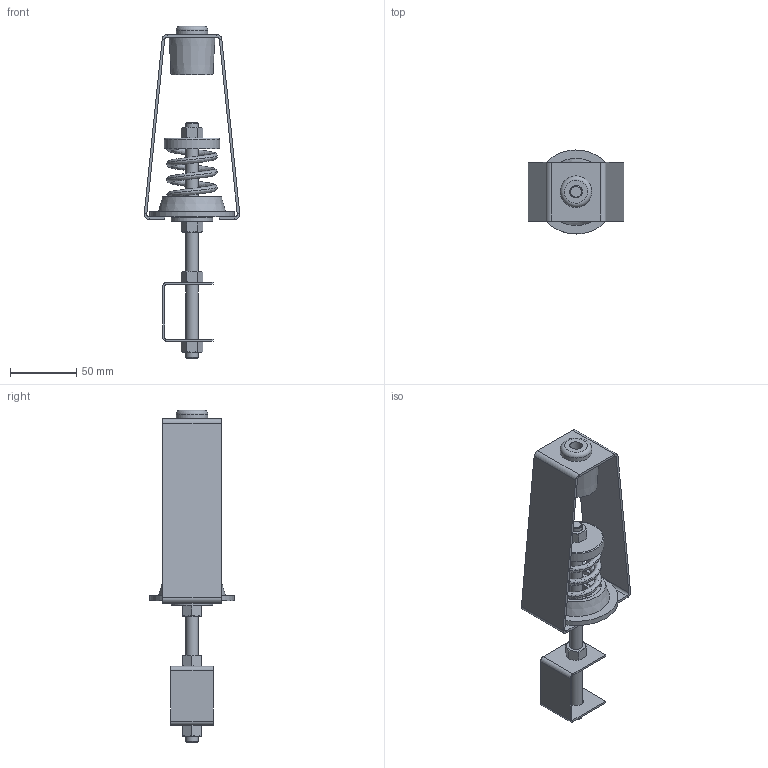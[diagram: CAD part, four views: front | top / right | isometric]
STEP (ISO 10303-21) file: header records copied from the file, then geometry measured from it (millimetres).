
FILE_DESCRIPTION(/* description */ (''),/* implementation_level */ '2;1');
FILE_NAME(/* name */ 'C:\001_Work\Designs\HANGER BOXES\ARCHITECTURAL CEILING HANGERS\30NCC-X\30NCC-X-210.stp',/* time_stamp */ '2016-01-28T10:27:35-05:00',/* author */ ('rramoutar'),/* organization */ ('Mason Industries Inc.'),/* preprocessor_version */ 'ST-DEVELOPER v15.6',/* originating_system */ 'Autodesk Inventor 2015',/* authorisation */ '');
FILE_SCHEMA (('CONFIG_CONTROL_DESIGN'));
Length unit declared in the file: inch
Products named in the file (1): 30NCC-X HANGER ASSY
Bounding box: 72.19 x 63.49 x 250.91 mm (x, y, z)
Volume: 108360.4 mm3; surface area: 87854.6 mm2
Topology: 15 solids, 15 shells, 236 faces, 493 edges, 295 vertices
Faces by surface type: plane 110, cone 60, cylinder 42, bspline 22, torus 2
Full cylindrical faces by diameter (mm): 7.798 x4, 9.525 x2, 10.319 x2, 11.112 x3, 17.462 x2, 20.637 x2, 23.812 x1, 25.4 x1, 26.987 x2, 28.575 x2, 31.75 x1, 38.1 x1, 38.894 x1, 39.687 x1, 39.688 x1, 41.906 x1, 63.5 x1
Entity records: 12489 total; most frequent: CARTESIAN_POINT 7630, ORIENTED_EDGE 888, DIRECTION 880, EDGE_CURVE 444, AXIS2_PLACEMENT_3D 365, EDGE_LOOP 316, VERTEX_POINT 288, STYLED_ITEM 251
